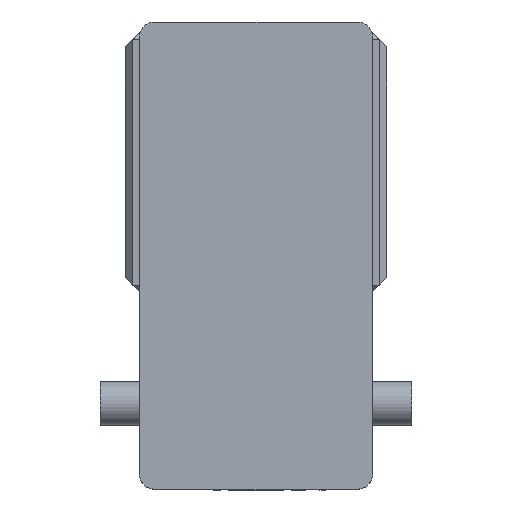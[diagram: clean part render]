
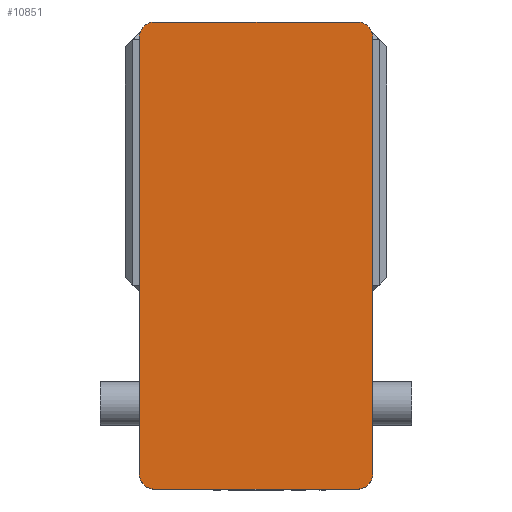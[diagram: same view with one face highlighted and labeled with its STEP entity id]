
A CAD part, left-side view. The second image highlights one B-rep face of the part: STEP entity #10851.
In plain terms, the highlighted planar face has unit normal (-1, 0, 0) as drawn and (0, 0, 1) by its records, which use the part's own axes.
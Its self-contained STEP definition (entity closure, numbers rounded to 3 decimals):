
#467 = VERTEX_POINT ( 'NONE', #570 ) ;
#570 = CARTESIAN_POINT ( 'NONE',  ( 75., 140., 105. ) ) ;
#1244 = DIRECTION ( 'NONE',  ( 1., 0., 0. ) ) ;
#1362 = DIRECTION ( 'NONE',  ( 1., 0., 0. ) ) ;
#1390 = DIRECTION ( 'NONE',  ( 0., 0., 1. ) ) ;
#1444 = CARTESIAN_POINT ( 'NONE',  ( -65., -140., 105. ) ) ;
#1780 = ORIENTED_EDGE ( 'NONE', *, *, #3413, .T. ) ;
#2268 = VERTEX_POINT ( 'NONE', #10447 ) ;
#2894 = CARTESIAN_POINT ( 'NONE',  ( 75., -140., 105. ) ) ;
#3089 = EDGE_CURVE ( 'NONE', #18965, #2268, #22358, .T. ) ;
#3340 = EDGE_CURVE ( 'NONE', #22397, #13304, #19593, .T. ) ;
#3413 = EDGE_CURVE ( 'NONE', #2268, #8951, #19345, .T. ) ;
#3745 = ORIENTED_EDGE ( 'NONE', *, *, #8483, .T. ) ;
#3836 = DIRECTION ( 'NONE',  ( -1., 0., 0. ) ) ;
#4004 = CARTESIAN_POINT ( 'NONE',  ( -75., 150., 105. ) ) ;
#4234 = VECTOR ( 'NONE', #12458, 1000. ) ;
#4283 = LINE ( 'NONE', #19383, #4234 ) ;
#4612 = CARTESIAN_POINT ( 'NONE',  ( -75., -150., 105. ) ) ;
#4923 = ORIENTED_EDGE ( 'NONE', *, *, #16769, .T. ) ;
#5171 = ORIENTED_EDGE ( 'NONE', *, *, #3340, .T. ) ;
#5328 = FACE_OUTER_BOUND ( 'NONE', #10890, .T. ) ;
#6558 = ORIENTED_EDGE ( 'NONE', *, *, #3089, .T. ) ;
#6768 = DIRECTION ( 'NONE',  ( 0., -1., 0. ) ) ;
#6912 = CARTESIAN_POINT ( 'NONE',  ( -75., 150., 105. ) ) ;
#7684 = EDGE_CURVE ( 'NONE', #13304, #9880, #11496, .T. ) ;
#8483 = EDGE_CURVE ( 'NONE', #8951, #22397, #11164, .T. ) ;
#8771 = AXIS2_PLACEMENT_3D ( 'NONE', #21786, #21770, #21769 ) ;
#8951 = VERTEX_POINT ( 'NONE', #15751 ) ;
#9639 = DIRECTION ( 'NONE',  ( 1., 0., 0. ) ) ;
#9880 = VERTEX_POINT ( 'NONE', #14912 ) ;
#10447 = CARTESIAN_POINT ( 'NONE',  ( -65., 150., 105. ) ) ;
#10851 = ADVANCED_FACE ( 'NONE', ( #5328 ), #20110, .T. ) ;
#10890 = EDGE_LOOP ( 'NONE', ( #16698, #4923, #19761, #21155, #6558, #1780, #3745, #5171 ) ) ;
#10892 = VECTOR ( 'NONE', #6768, 1000. ) ;
#11019 = CARTESIAN_POINT ( 'NONE',  ( -65., -150., 105. ) ) ;
#11118 = AXIS2_PLACEMENT_3D ( 'NONE', #18961, #18900, #18367 ) ;
#11164 = LINE ( 'NONE', #6912, #10892 ) ;
#11279 = EDGE_CURVE ( 'NONE', #18341, #467, #4283, .T. ) ;
#11287 = AXIS2_PLACEMENT_3D ( 'NONE', #14760, #14710, #14685 ) ;
#11387 = AXIS2_PLACEMENT_3D ( 'NONE', #1444, #1390, #1362 ) ;
#11468 = VECTOR ( 'NONE', #1244, 1000. ) ;
#11496 = LINE ( 'NONE', #4612, #11468 ) ;
#12458 = DIRECTION ( 'NONE',  ( 0., 1., 0. ) ) ;
#12802 = CARTESIAN_POINT ( 'NONE',  ( -75., -140., 105. ) ) ;
#13304 = VERTEX_POINT ( 'NONE', #11019 ) ;
#14252 = CARTESIAN_POINT ( 'NONE',  ( 65., 150., 105. ) ) ;
#14685 = DIRECTION ( 'NONE',  ( 1., 0., 0. ) ) ;
#14710 = DIRECTION ( 'NONE',  ( 0., 0., 1. ) ) ;
#14760 = CARTESIAN_POINT ( 'NONE',  ( 65., 140., 105. ) ) ;
#14912 = CARTESIAN_POINT ( 'NONE',  ( 65., -150., 105. ) ) ;
#15149 = CIRCLE ( 'NONE', #8771, 10. ) ;
#15692 = AXIS2_PLACEMENT_3D ( 'NONE', #22900, #18083, #9639 ) ;
#15751 = CARTESIAN_POINT ( 'NONE',  ( -75., 140., 105. ) ) ;
#15777 = EDGE_CURVE ( 'NONE', #467, #18965, #18437, .T. ) ;
#16698 = ORIENTED_EDGE ( 'NONE', *, *, #7684, .T. ) ;
#16769 = EDGE_CURVE ( 'NONE', #9880, #18341, #15149, .T. ) ;
#18083 = DIRECTION ( 'NONE',  ( 0., 0., 1. ) ) ;
#18341 = VERTEX_POINT ( 'NONE', #2894 ) ;
#18367 = DIRECTION ( 'NONE',  ( 1., 0., 0. ) ) ;
#18437 = CIRCLE ( 'NONE', #11287, 10. ) ;
#18900 = DIRECTION ( 'NONE',  ( 0., 0., 1. ) ) ;
#18961 = CARTESIAN_POINT ( 'NONE',  ( -65., 140., 105. ) ) ;
#18965 = VERTEX_POINT ( 'NONE', #14252 ) ;
#19345 = CIRCLE ( 'NONE', #11118, 10. ) ;
#19383 = CARTESIAN_POINT ( 'NONE',  ( 75., 150., 105. ) ) ;
#19593 = CIRCLE ( 'NONE', #11387, 10. ) ;
#19761 = ORIENTED_EDGE ( 'NONE', *, *, #11279, .T. ) ;
#19914 = VECTOR ( 'NONE', #3836, 1000. ) ;
#20110 = PLANE ( 'NONE',  #15692 ) ;
#21155 = ORIENTED_EDGE ( 'NONE', *, *, #15777, .T. ) ;
#21769 = DIRECTION ( 'NONE',  ( 1., 0., 0. ) ) ;
#21770 = DIRECTION ( 'NONE',  ( 0., 0., 1. ) ) ;
#21786 = CARTESIAN_POINT ( 'NONE',  ( 65., -140., 105. ) ) ;
#22358 = LINE ( 'NONE', #4004, #19914 ) ;
#22397 = VERTEX_POINT ( 'NONE', #12802 ) ;
#22900 = CARTESIAN_POINT ( 'NONE',  ( 0., 0., 105. ) ) ;
